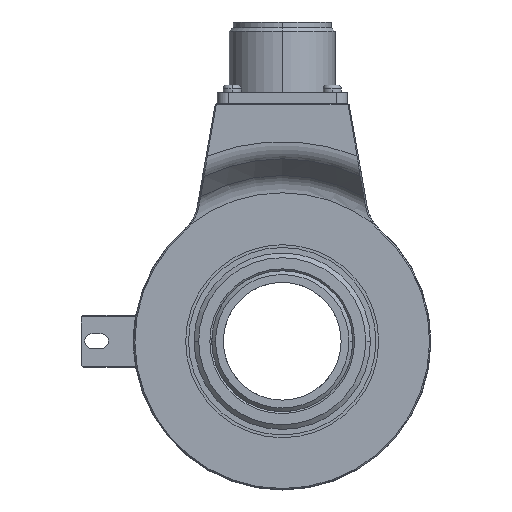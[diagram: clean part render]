
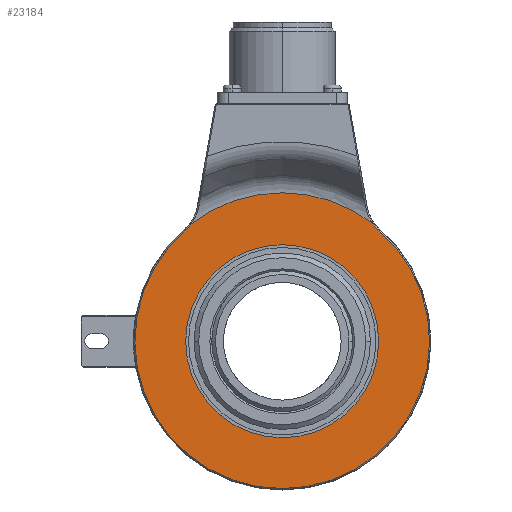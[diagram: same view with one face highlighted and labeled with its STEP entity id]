
A CAD part, left-side view. The second image highlights one B-rep face of the part: STEP entity #23184.
In plain terms, the highlighted planar face has unit normal (-1, 0, 0).
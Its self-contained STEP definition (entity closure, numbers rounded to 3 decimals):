
#1900 = CIRCLE ( 'NONE', #8374, 10.3 ) ;
#1930 = CIRCLE ( 'NONE', #11231, 26. ) ;
#2258 = ORIENTED_EDGE ( 'NONE', *, *, #22376, .F. ) ;
#2332 = CARTESIAN_POINT ( 'NONE',  ( -26., 26.029, 29.976 ) ) ;
#2953 = CIRCLE ( 'NONE', #18717, 40. ) ;
#2976 = VERTEX_POINT ( 'NONE', #11625 ) ;
#3021 = DIRECTION ( 'NONE',  ( 0., 0., -1. ) ) ;
#3764 = DIRECTION ( 'NONE',  ( 1., 0., 0. ) ) ;
#3901 = ORIENTED_EDGE ( 'NONE', *, *, #23463, .F. ) ;
#5290 = EDGE_CURVE ( 'NONE', #7396, #2976, #12701, .T. ) ;
#5676 = CARTESIAN_POINT ( 'NONE',  ( -26., 0., 26. ) ) ;
#6063 = DIRECTION ( 'NONE',  ( -1., 0., 0. ) ) ;
#6256 = FACE_OUTER_BOUND ( 'NONE', #12691, .T. ) ;
#7396 = VERTEX_POINT ( 'NONE', #2332 ) ;
#8147 = PLANE ( 'NONE',  #20490 ) ;
#8374 = AXIS2_PLACEMENT_3D ( 'NONE', #21614, #3764, #9582 ) ;
#9582 = DIRECTION ( 'NONE',  ( 0., 0., -1. ) ) ;
#9729 = CARTESIAN_POINT ( 'NONE',  ( -26., 0., 0. ) ) ;
#10687 = CARTESIAN_POINT ( 'NONE',  ( -26., -24.52, 31.603 ) ) ;
#10823 = AXIS2_PLACEMENT_3D ( 'NONE', #18338, #20239, #3021 ) ;
#11231 = AXIS2_PLACEMENT_3D ( 'NONE', #13431, #18884, #23057 ) ;
#11625 = CARTESIAN_POINT ( 'NONE',  ( -26., -26.029, 29.976 ) ) ;
#11638 = DIRECTION ( 'NONE',  ( 0., 0., -1. ) ) ;
#12199 = DIRECTION ( 'NONE',  ( 0., 0., -1. ) ) ;
#12449 = CIRCLE ( 'NONE', #24153, 26. ) ;
#12691 = EDGE_LOOP ( 'NONE', ( #19475, #18328, #19324, #15524 ) ) ;
#12701 = CIRCLE ( 'NONE', #14694, 39.7 ) ;
#13387 = DIRECTION ( 'NONE',  ( -1., 0., 0. ) ) ;
#13431 = CARTESIAN_POINT ( 'NONE',  ( -26., 0., 0. ) ) ;
#14033 = CARTESIAN_POINT ( 'NONE',  ( -26., 0., -26. ) ) ;
#14438 = EDGE_CURVE ( 'NONE', #2976, #15998, #1900, .T. ) ;
#14694 = AXIS2_PLACEMENT_3D ( 'NONE', #17051, #13387, #24769 ) ;
#15324 = EDGE_CURVE ( 'NONE', #15998, #16119, #2953, .T. ) ;
#15524 = ORIENTED_EDGE ( 'NONE', *, *, #22637, .T. ) ;
#15998 = VERTEX_POINT ( 'NONE', #10687 ) ;
#16119 = VERTEX_POINT ( 'NONE', #17119 ) ;
#16788 = VERTEX_POINT ( 'NONE', #14033 ) ;
#17051 = CARTESIAN_POINT ( 'NONE',  ( -26., 0., 0. ) ) ;
#17119 = CARTESIAN_POINT ( 'NONE',  ( -26., 24.52, 31.603 ) ) ;
#18328 = ORIENTED_EDGE ( 'NONE', *, *, #14438, .T. ) ;
#18338 = CARTESIAN_POINT ( 'NONE',  ( -26., 32.782, 37.753 ) ) ;
#18717 = AXIS2_PLACEMENT_3D ( 'NONE', #23717, #21812, #12199 ) ;
#18884 = DIRECTION ( 'NONE',  ( -1., 0., 0. ) ) ;
#18901 = VERTEX_POINT ( 'NONE', #5676 ) ;
#19324 = ORIENTED_EDGE ( 'NONE', *, *, #15324, .T. ) ;
#19475 = ORIENTED_EDGE ( 'NONE', *, *, #5290, .T. ) ;
#19678 = FACE_BOUND ( 'NONE', #22457, .T. ) ;
#19929 = CARTESIAN_POINT ( 'NONE',  ( -26., 0., 0. ) ) ;
#20239 = DIRECTION ( 'NONE',  ( 1., 0., 0. ) ) ;
#20490 = AXIS2_PLACEMENT_3D ( 'NONE', #19929, #23604, #23863 ) ;
#21614 = CARTESIAN_POINT ( 'NONE',  ( -26., -32.782, 37.753 ) ) ;
#21812 = DIRECTION ( 'NONE',  ( -1., 0., 0. ) ) ;
#22376 = EDGE_CURVE ( 'NONE', #16788, #18901, #1930, .T. ) ;
#22457 = EDGE_LOOP ( 'NONE', ( #2258, #3901 ) ) ;
#22637 = EDGE_CURVE ( 'NONE', #16119, #7396, #24192, .T. ) ;
#23057 = DIRECTION ( 'NONE',  ( 0., 0., -1. ) ) ;
#23184 = ADVANCED_FACE ( 'NONE', ( #19678, #6256 ), #8147, .T. ) ;
#23463 = EDGE_CURVE ( 'NONE', #18901, #16788, #12449, .T. ) ;
#23604 = DIRECTION ( 'NONE',  ( -1., 0., 0. ) ) ;
#23717 = CARTESIAN_POINT ( 'NONE',  ( -26., 0., 0. ) ) ;
#23863 = DIRECTION ( 'NONE',  ( 0., 0., -1. ) ) ;
#24153 = AXIS2_PLACEMENT_3D ( 'NONE', #9729, #6063, #11638 ) ;
#24192 = CIRCLE ( 'NONE', #10823, 10.3 ) ;
#24769 = DIRECTION ( 'NONE',  ( 0., 0., -1. ) ) ;
